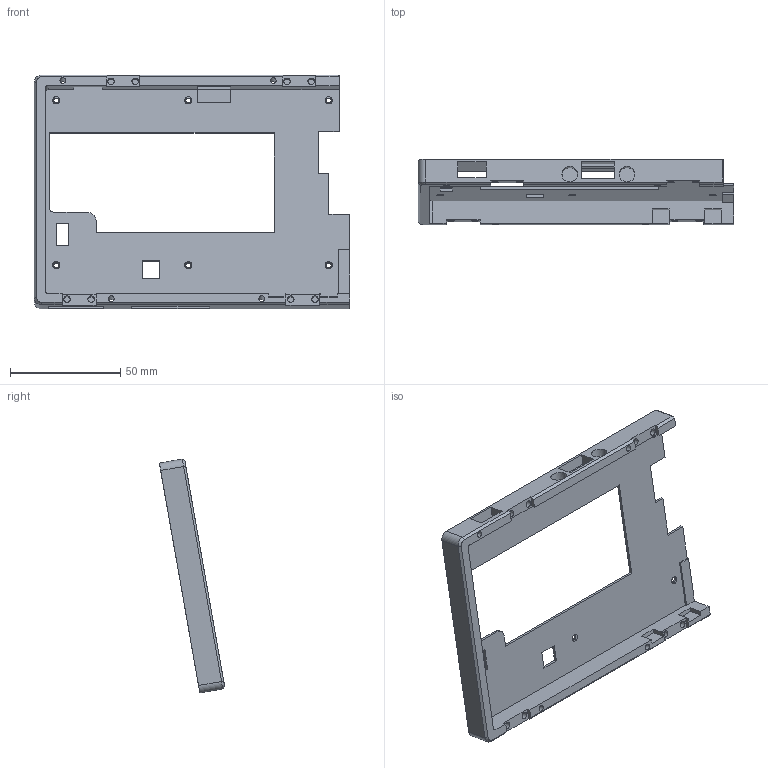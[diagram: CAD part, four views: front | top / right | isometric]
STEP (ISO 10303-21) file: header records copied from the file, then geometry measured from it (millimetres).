
FILE_DESCRIPTION(/* description */ (''),/* implementation_level */ '2;1');
FILE_NAME(/* name */ '',/* time_stamp */ '2025-12-16T10:05:23+08:00',/* author */ ('HELLO'),/* organization */ (''),/* preprocessor_version */ 'ST-DEVELOPER v20',/* originating_system */ 'Autodesk Inventor 2024',/* authorisation */ '');
FILE_SCHEMA (('AUTOMOTIVE_DESIGN { 1 0 10303 214 3 1 1 }'));
Length unit declared in the file: millimetre
Products named in the file (1): 左底壳2
Bounding box: 143.41 x 29.67 x 106.28 mm (x, y, z)
Volume: 28077.4 mm3; surface area: 29976 mm2
Topology: 1 solids, 1 shells, 136 faces, 364 edges, 238 vertices
Faces by surface type: plane 96, cylinder 28, cone 12
Full cylindrical faces by diameter (mm): 2.3 x6, 2.6 x4, 3 x8, 7.2 x2
Entity records: 4321 total; most frequent: CARTESIAN_POINT 739, ORIENTED_EDGE 728, DIRECTION 716, EDGE_CURVE 364, LINE 286, VECTOR 286, VERTEX_POINT 238, AXIS2_PLACEMENT_3D 215
